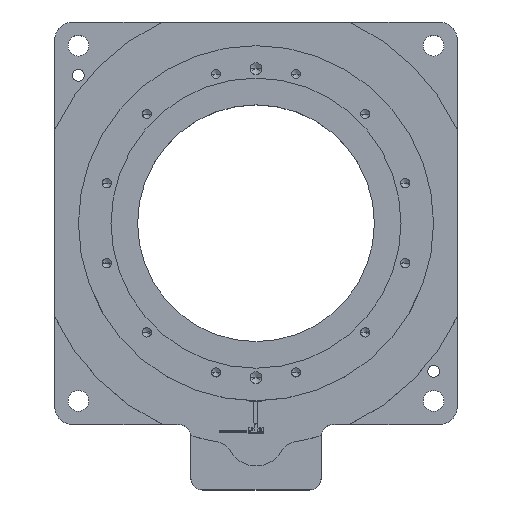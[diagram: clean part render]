
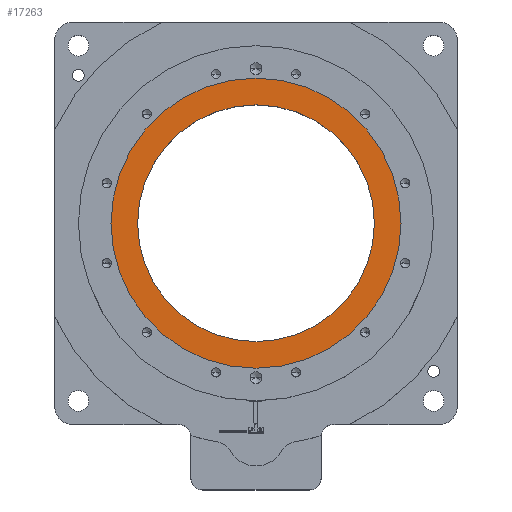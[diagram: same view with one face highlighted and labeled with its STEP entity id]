
A CAD part, top view. The second image highlights one B-rep face of the part: STEP entity #17263.
In plain terms, the highlighted planar face has unit normal (0, 0, 1).
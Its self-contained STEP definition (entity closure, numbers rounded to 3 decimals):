
#279 = CARTESIAN_POINT ( 'NONE',  ( -21.205, 53.469, 145.5 ) ) ;
#1734 = CIRCLE ( 'NONE', #10551, 200. ) ;
#2309 = CIRCLE ( 'NONE', #6932, 245. ) ;
#2740 = DIRECTION ( 'NONE',  ( 1., 0., 0. ) ) ;
#4535 = DIRECTION ( 'NONE',  ( 1., 0., 0. ) ) ;
#4727 = CARTESIAN_POINT ( 'NONE',  ( -266.205, 53.469, 145.5 ) ) ;
#6459 = EDGE_LOOP ( 'NONE', ( #19353, #14694 ) ) ;
#6832 = DIRECTION ( 'NONE',  ( 0., 0., 1. ) ) ;
#6932 = AXIS2_PLACEMENT_3D ( 'NONE', #279, #13618, #2740 ) ;
#6994 = DIRECTION ( 'NONE',  ( 0., 0., 1. ) ) ;
#7425 = ORIENTED_EDGE ( 'NONE', *, *, #19759, .T. ) ;
#9325 = CIRCLE ( 'NONE', #18146, 200. ) ;
#10551 = AXIS2_PLACEMENT_3D ( 'NONE', #11227, #6994, #15861 ) ;
#10761 = AXIS2_PLACEMENT_3D ( 'NONE', #24188, #6832, #4535 ) ;
#11227 = CARTESIAN_POINT ( 'NONE',  ( -21.205, 53.469, 145.5 ) ) ;
#12727 = CARTESIAN_POINT ( 'NONE',  ( 178.795, 53.469, 145.5 ) ) ;
#13228 = PLANE ( 'NONE',  #28808 ) ;
#13618 = DIRECTION ( 'NONE',  ( 0., 0., 1. ) ) ;
#14025 = EDGE_CURVE ( 'NONE', #22773, #22826, #1734, .T. ) ;
#14199 = CARTESIAN_POINT ( 'NONE',  ( 223.795, 53.469, 145.5 ) ) ;
#14593 = ORIENTED_EDGE ( 'NONE', *, *, #20612, .T. ) ;
#14649 = DIRECTION ( 'NONE',  ( 0., 0., 1. ) ) ;
#14694 = ORIENTED_EDGE ( 'NONE', *, *, #14025, .F. ) ;
#15669 = VERTEX_POINT ( 'NONE', #14199 ) ;
#15838 = CIRCLE ( 'NONE', #10761, 245. ) ;
#15861 = DIRECTION ( 'NONE',  ( 1., 0., 0. ) ) ;
#16730 = FACE_BOUND ( 'NONE', #6459, .T. ) ;
#17263 = ADVANCED_FACE ( 'NONE', ( #16730, #21841 ), #13228, .T. ) ;
#18146 = AXIS2_PLACEMENT_3D ( 'NONE', #21652, #14649, #25916 ) ;
#19046 = VERTEX_POINT ( 'NONE', #4727 ) ;
#19353 = ORIENTED_EDGE ( 'NONE', *, *, #24198, .F. ) ;
#19759 = EDGE_CURVE ( 'NONE', #19046, #15669, #2309, .T. ) ;
#19938 = CARTESIAN_POINT ( 'NONE',  ( -21.205, 53.469, 145.5 ) ) ;
#20612 = EDGE_CURVE ( 'NONE', #15669, #19046, #15838, .T. ) ;
#20755 = CARTESIAN_POINT ( 'NONE',  ( -221.205, 53.469, 145.5 ) ) ;
#21652 = CARTESIAN_POINT ( 'NONE',  ( -21.205, 53.469, 145.5 ) ) ;
#21841 = FACE_OUTER_BOUND ( 'NONE', #27584, .T. ) ;
#22266 = DIRECTION ( 'NONE',  ( 1., 0., 0. ) ) ;
#22773 = VERTEX_POINT ( 'NONE', #20755 ) ;
#22826 = VERTEX_POINT ( 'NONE', #12727 ) ;
#24188 = CARTESIAN_POINT ( 'NONE',  ( -21.205, 53.469, 145.5 ) ) ;
#24198 = EDGE_CURVE ( 'NONE', #22826, #22773, #9325, .T. ) ;
#25916 = DIRECTION ( 'NONE',  ( 1., 0., 0. ) ) ;
#26251 = DIRECTION ( 'NONE',  ( 0., 0., 1. ) ) ;
#27584 = EDGE_LOOP ( 'NONE', ( #14593, #7425 ) ) ;
#28808 = AXIS2_PLACEMENT_3D ( 'NONE', #19938, #26251, #22266 ) ;
